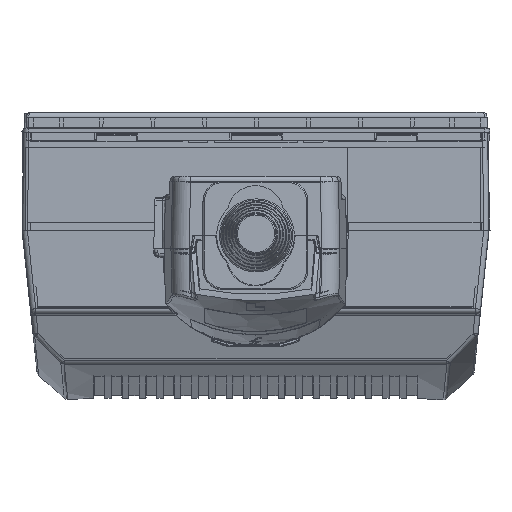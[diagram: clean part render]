
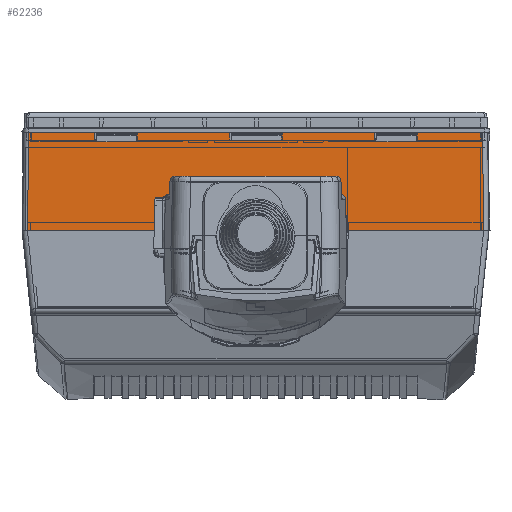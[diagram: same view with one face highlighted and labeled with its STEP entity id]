
A CAD part, top view. The second image highlights one B-rep face of the part: STEP entity #62236.
In plain terms, the highlighted planar face has unit normal (0, 0.013, 1) as drawn and (0, -0.013, 1) by its records, which use the part's own axes.
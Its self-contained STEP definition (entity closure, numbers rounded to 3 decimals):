
#9065=ORIENTED_EDGE('',*,*,#26939,.T.);
#9066=ORIENTED_EDGE('',*,*,#26936,.T.);
#9067=ORIENTED_EDGE('',*,*,#26250,.T.);
#9068=ORIENTED_EDGE('',*,*,#26232,.T.);
#9069=ORIENTED_EDGE('',*,*,#26853,.F.);
#9070=ORIENTED_EDGE('',*,*,#26532,.T.);
#9071=ORIENTED_EDGE('',*,*,#26877,.T.);
#9072=ORIENTED_EDGE('',*,*,#26533,.F.);
#9073=ORIENTED_EDGE('',*,*,#26163,.F.);
#9074=ORIENTED_EDGE('',*,*,#26178,.F.);
#9075=ORIENTED_EDGE('',*,*,#26170,.T.);
#9076=ORIENTED_EDGE('',*,*,#26168,.F.);
#9077=ORIENTED_EDGE('',*,*,#26167,.T.);
#9078=ORIENTED_EDGE('',*,*,#26730,.T.);
#9079=ORIENTED_EDGE('',*,*,#26774,.F.);
#9080=ORIENTED_EDGE('',*,*,#26733,.F.);
#9081=ORIENTED_EDGE('',*,*,#26753,.T.);
#9082=ORIENTED_EDGE('',*,*,#26552,.F.);
#9083=ORIENTED_EDGE('',*,*,#26946,.F.);
#9084=ORIENTED_EDGE('',*,*,#26942,.F.);
#26163=EDGE_CURVE('',#35700,#35701,#41940,.T.);
#26167=EDGE_CURVE('',#35702,#35703,#41944,.T.);
#26168=EDGE_CURVE('',#35702,#35704,#41945,.T.);
#26170=EDGE_CURVE('',#35705,#35704,#41947,.T.);
#26178=EDGE_CURVE('',#35705,#35700,#41955,.T.);
#26232=EDGE_CURVE('',#35752,#35750,#42006,.T.);
#26250=EDGE_CURVE('',#35767,#35752,#42020,.T.);
#26532=EDGE_CURVE('',#35931,#35932,#42263,.T.);
#26533=EDGE_CURVE('',#35701,#35933,#42264,.T.);
#26552=EDGE_CURVE('',#35946,#35943,#42281,.T.);
#26730=EDGE_CURVE('',#35703,#36058,#42444,.T.);
#26733=EDGE_CURVE('',#36060,#36061,#42447,.T.);
#26753=EDGE_CURVE('',#36060,#35943,#42461,.T.);
#26774=EDGE_CURVE('',#36061,#36058,#42477,.T.);
#26853=EDGE_CURVE('',#35931,#35750,#42547,.T.);
#26877=EDGE_CURVE('',#35932,#35933,#42567,.T.);
#26936=EDGE_CURVE('',#36149,#35767,#42605,.T.);
#26939=EDGE_CURVE('',#36151,#36149,#42608,.T.);
#26942=EDGE_CURVE('',#36151,#36153,#42611,.T.);
#26946=EDGE_CURVE('',#36153,#35946,#42615,.T.);
#35700=VERTEX_POINT('',#86627);
#35701=VERTEX_POINT('',#86629);
#35702=VERTEX_POINT('',#86633);
#35703=VERTEX_POINT('',#86635);
#35704=VERTEX_POINT('',#86639);
#35705=VERTEX_POINT('',#86643);
#35750=VERTEX_POINT('',#86766);
#35752=VERTEX_POINT('',#86769);
#35767=VERTEX_POINT('',#86808);
#35931=VERTEX_POINT('',#87367);
#35932=VERTEX_POINT('',#87370);
#35933=VERTEX_POINT('',#87374);
#35943=VERTEX_POINT('',#87406);
#35946=VERTEX_POINT('',#87411);
#36058=VERTEX_POINT('',#87764);
#36060=VERTEX_POINT('',#87770);
#36061=VERTEX_POINT('',#87772);
#36149=VERTEX_POINT('',#88200);
#36151=VERTEX_POINT('',#88206);
#36153=VERTEX_POINT('',#88212);
#41940=LINE('',#86628,#47399);
#41944=LINE('',#86636,#47403);
#41945=LINE('',#86638,#47404);
#41947=LINE('',#86642,#47406);
#41955=LINE('',#86656,#47414);
#42006=LINE('',#86768,#47465);
#42020=LINE('',#86807,#47479);
#42263=LINE('',#87371,#47722);
#42264=LINE('',#87373,#47723);
#42281=LINE('',#87412,#47740);
#42444=LINE('',#87765,#47903);
#42447=LINE('',#87771,#47906);
#42461=LINE('',#87826,#47920);
#42477=LINE('',#87865,#47936);
#42547=LINE('',#88038,#48006);
#42567=LINE('',#88079,#48026);
#42605=LINE('',#88199,#48064);
#42608=LINE('',#88205,#48067);
#42611=LINE('',#88211,#48070);
#42615=LINE('',#88219,#48074);
#47399=VECTOR('',#71235,1000.);
#47403=VECTOR('',#71241,1000.);
#47404=VECTOR('',#71244,1000.);
#47406=VECTOR('',#71248,1000.);
#47414=VECTOR('',#71258,1000.);
#47465=VECTOR('',#71347,1000.);
#47479=VECTOR('',#71371,1000.);
#47722=VECTOR('',#71908,1000.);
#47723=VECTOR('',#71911,1000.);
#47740=VECTOR('',#71944,1000.);
#47903=VECTOR('',#72247,1000.);
#47906=VECTOR('',#72252,1000.);
#47920=VECTOR('',#72278,1000.);
#47936=VECTOR('',#72304,1000.);
#48006=VECTOR('',#72434,1000.);
#48026=VECTOR('',#72472,1000.);
#48064=VECTOR('',#72642,1000.);
#48067=VECTOR('',#72647,1000.);
#48070=VECTOR('',#72652,1000.);
#48074=VECTOR('',#72658,1000.);
#52858=EDGE_LOOP('',(#9065,#9066,#9067,#9068,#9069,#9070,#9071,#9072,#9073,
#9074,#9075,#9076,#9077,#9078,#9079,#9080,#9081,#9082,#9083,#9084));
#56769=FACE_BOUND('',#52858,.T.);
#60549=PLANE('',#66072);
#62236=ADVANCED_FACE('',(#56769),#60549,.T.);
#66072=AXIS2_PLACEMENT_3D('',#88356,#72768,#72769);
#71235=DIRECTION('',(-1.,0.,0.));
#71241=DIRECTION('',(1.,0.,0.));
#71244=DIRECTION('',(-0.035,0.999,0.013));
#71248=DIRECTION('',(1.,0.,0.));
#71258=DIRECTION('',(-0.035,-0.999,-0.013));
#71347=DIRECTION('',(0.013,-1.,-0.013));
#71371=DIRECTION('',(-1.,0.,0.));
#71908=DIRECTION('',(0.013,1.,0.013));
#71911=DIRECTION('',(-0.013,1.,0.013));
#71944=DIRECTION('',(-0.013,-1.,-0.013));
#72247=DIRECTION('',(0.013,1.,0.013));
#72252=DIRECTION('',(-0.013,1.,0.013));
#72278=DIRECTION('',(1.,0.,0.));
#72304=DIRECTION('',(-1.,0.,0.));
#72434=DIRECTION('',(-1.,0.,0.));
#72472=DIRECTION('',(1.,0.,0.));
#72642=DIRECTION('',(-0.026,1.,0.013));
#72647=DIRECTION('',(-1.,0.,0.));
#72652=DIRECTION('',(0.026,1.,0.013));
#72658=DIRECTION('',(1.,0.,0.));
#72768=DIRECTION('',(0.,-0.013,1.));
#72769=DIRECTION('',(0.,-1.,-0.013));
#86627=CARTESIAN_POINT('',(-10.,-32.5,13.55));
#86628=CARTESIAN_POINT('',(0.,-32.5,13.55));
#86629=CARTESIAN_POINT('',(-45.952,-32.5,13.55));
#86633=CARTESIAN_POINT('',(10.,-32.5,13.55));
#86635=CARTESIAN_POINT('',(45.952,-32.5,13.55));
#86636=CARTESIAN_POINT('',(0.,-32.5,13.55));
#86638=CARTESIAN_POINT('',(8.872,-0.19,13.973));
#86639=CARTESIAN_POINT('',(9.895,-29.5,13.589));
#86642=CARTESIAN_POINT('',(0.,-29.5,13.589));
#86643=CARTESIAN_POINT('',(-9.895,-29.5,13.589));
#86656=CARTESIAN_POINT('',(-8.872,-0.19,13.973));
#86766=CARTESIAN_POINT('',(-87.503,-32.5,13.55));
#86768=CARTESIAN_POINT('',(-87.907,-1.651,13.954));
#86769=CARTESIAN_POINT('',(-88.,5.5,14.047));
#86807=CARTESIAN_POINT('',(0.,5.5,14.047));
#86808=CARTESIAN_POINT('',(-35.307,5.5,14.047));
#87367=CARTESIAN_POINT('',(-62.048,-32.5,13.55));
#87370=CARTESIAN_POINT('',(-62.,-28.85,13.598));
#87371=CARTESIAN_POINT('',(-61.989,-28.039,13.608));
#87373=CARTESIAN_POINT('',(-45.992,-29.452,13.59));
#87374=CARTESIAN_POINT('',(-46.,-28.85,13.598));
#87406=CARTESIAN_POINT('',(87.503,-32.5,13.55));
#87411=CARTESIAN_POINT('',(88.,5.5,14.047));
#87412=CARTESIAN_POINT('',(87.907,-1.651,13.954));
#87764=CARTESIAN_POINT('',(46.,-28.85,13.598));
#87765=CARTESIAN_POINT('',(45.992,-29.452,13.59));
#87770=CARTESIAN_POINT('',(62.048,-32.5,13.55));
#87771=CARTESIAN_POINT('',(61.989,-28.039,13.608));
#87772=CARTESIAN_POINT('',(62.,-28.85,13.598));
#87826=CARTESIAN_POINT('',(0.,-32.5,13.55));
#87865=CARTESIAN_POINT('',(40.,-28.85,13.598));
#88038=CARTESIAN_POINT('',(0.,-32.5,13.55));
#88079=CARTESIAN_POINT('',(-40.,-28.85,13.598));
#88199=CARTESIAN_POINT('',(-35.126,-1.42,13.957));
#88200=CARTESIAN_POINT('',(-35.15,-0.5,13.969));
#88205=CARTESIAN_POINT('',(0.,-0.5,13.969));
#88206=CARTESIAN_POINT('',(35.15,-0.5,13.969));
#88211=CARTESIAN_POINT('',(35.126,-1.42,13.957));
#88212=CARTESIAN_POINT('',(35.307,5.5,14.047));
#88219=CARTESIAN_POINT('',(0.,5.5,14.047));
#88356=CARTESIAN_POINT('',(0.,-0.5,13.969));
